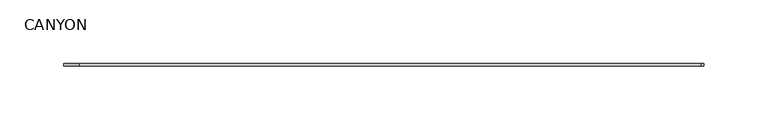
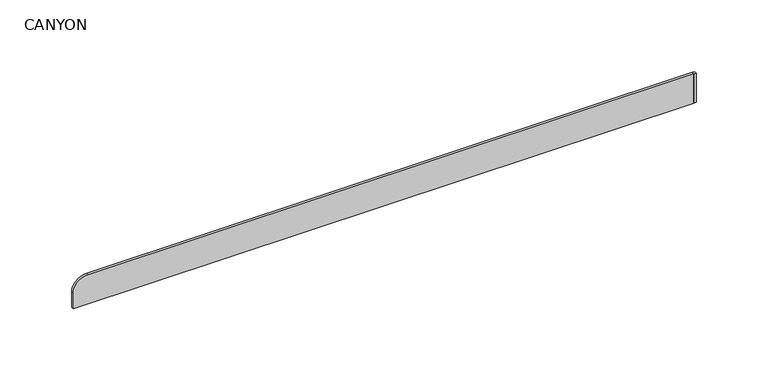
"""IFC4 building model written with IfcOpenShell, lengths in millimetres: proxy geometry, BORDA BLOCKLINE STEP CANYON 50X50 EXT BOLD : CANYON."""

from ifc_helpers import new_model, si_unit, point, frame, frame_2d, origin, place, context, project, spatial, polyline, circle_curve, trimmed, segment, composite_curve, outline, extrude, source, transform, mapped, element, save


def canyon_287c7c05(model_context):
    return source(origin(), model_context, "Body", "SweptSolid", [
        extrude(outline(polyline([(258.0000153, 251.0), (260.0000153, 251.0), (260.0000153, 249.0), (258.0000153, 249.0), (258.0000153, 251.0)])), frame((0.0, 0.0, -25.0), z_axis=(0.0, 0.0, 1.0), x_axis=(1.0, 0.0, 0.0)), (0.0, 0.0, 1.0), 25.0),
        extrude(outline(composite_curve([segment(polyline([(-24.9999835, -242.0), (-25.0, 258.0000153), (0.0, 258.0000153), (0.0, -229.9746012)]), True, "CONTINUOUS"), segment(trimmed(circle_curve(frame_2d((-12.0253988, -229.9746012)), 12.0253988), [point((0.0, -229.9746012))], [point((-12.0253988, -242.0))], False, "CARTESIAN"), True, "CONTINUOUS"), segment(polyline([(-12.0253988, -242.0), (-24.9999835, -242.0)]), True, "CONTINUOUS")], self_intersect=False)), frame((0.0, 249.0, 0.0), z_axis=(0.0, 1.0, 0.0), x_axis=(0.0, 0.0, 1.0)), (0.0, 0.0, 1.0), 2.0),
    ])


if __name__ == "__main__":
    model = new_model("IFC4")
    model_context = context("Model", 3, world=origin())
    ifc_project = project(units=[si_unit("LENGTHUNIT", "METRE", prefix="MILLI")], contexts=[model_context])
    site = spatial("IfcSite", under=ifc_project)
    building = spatial("IfcBuilding", under=site)
    placement = place(None, origin())
    canyon_shape = canyon_287c7c05(model_context)
    element("IfcBuildingElementProxy", 1, Name="BORDA BLOCKLINE STEP CANYON 50X50 EXT BOLD : CANYON", ObjectType="BORDA BLOCKLINE STEP CANYON 50X50 EXT BOLD : CANYON", at=placement, inside=building, context=model_context, shape_type="MappedRepresentation", body=[
        mapped(canyon_shape, transform((0.0, 0.0, 0.0), x_axis=(1.0, 0.0, 0.0), y_axis=(0.0, 1.0, 0.0), z_axis=(0.0, 0.0, 1.0))),
    ])
    save(model, "model.ifc")
